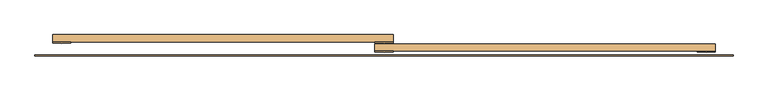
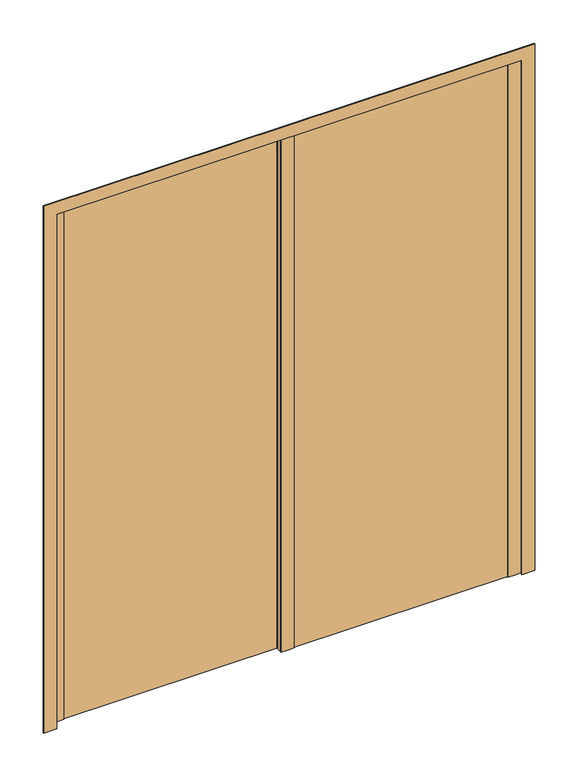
"""IFC4 building model written with IfcOpenShell, lengths in millimetres: door geometry, Portes - Placard coulissante - 2 panneaux - Placard coulissante - 2 panneaux 1.80."""

from ifc_helpers import new_model, si_unit, point, frame, frame_2d, origin, origin_with_axes, place, context, project, spatial, polyline, circle_curve, trimmed, segment, composite_curve, outline, extrude, source, transform, mapped, element, save


def door_b5ea6a65(model_context):
    return source(origin(), model_context, "Body", "SweptSolid", [
        extrude(outline(composite_curve([segment(polyline([(925.0, 10.0), (925.0, 8.0)]), True, "CONTINUOUS"), segment(trimmed(circle_curve(frame_2d((900.0, 221.8603852)), 215.3166607), [point((925.0, 8.0))], [point((875.0, 8.0))], False, "CARTESIAN"), True, "CONTINUOUS"), segment(polyline([(875.0, 8.0), (875.0, 10.0), (925.0, 10.0)]), True, "CONTINUOUS")], self_intersect=False)), origin_with_axes(), (0.0, 0.0, 1.0), 2100.0),
        extrude(outline(composite_curve([segment(polyline([(925.0, 35.0), (925.0, 33.0)]), True, "CONTINUOUS"), segment(trimmed(circle_curve(frame_2d((900.0, 246.8603852)), 215.3166607), [point((925.0, 33.0))], [point((875.0, 33.0))], False, "CARTESIAN"), True, "CONTINUOUS"), segment(polyline([(875.0, 33.0), (875.0, 35.0), (925.0, 35.0)]), True, "CONTINUOUS")], self_intersect=False)), origin_with_axes(), (0.0, 0.0, 1.0), 2100.0),
        extrude(outline(composite_curve([segment(polyline([(50.0, 35.0), (50.0, 33.0)]), True, "CONTINUOUS"), segment(trimmed(circle_curve(frame_2d((25.0, 246.8603852)), 215.3166607), [point((50.0, 33.0))], [point((0.0, 33.0))], False, "CARTESIAN"), True, "CONTINUOUS"), segment(polyline([(0.0, 33.0), (0.0, 35.0), (50.0, 35.0)]), True, "CONTINUOUS")], self_intersect=False)), origin_with_axes(), (0.0, 0.0, 1.0), 2100.0),
        extrude(outline(polyline([(0.0, -48.0), (0.0, 2.0), (2098.0, 2.0), (2098.0, 1798.0), (0.0, 1798.0), (0.0, 1848.0), (2148.0, 1848.0), (2148.0, -48.0), (0.0, -48.0)])), frame((0.0, -3.0, 0.0), z_axis=(0.0, 1.0, 0.0), x_axis=(0.0, 0.0, 1.0)), (0.0, 0.0, 1.0), 3.0),
        extrude(outline(polyline([(1800.0, 10.0), (875.0, 10.0), (875.0, 30.0), (1800.0, 30.0), (1800.0, 10.0)])), origin_with_axes(), (0.0, 0.0, 1.0), 2100.0),
        extrude(outline(polyline([(925.0, 35.0), (0.0, 35.0), (0.0, 55.0), (925.0, 55.0), (925.0, 35.0)])), origin_with_axes(), (0.0, 0.0, 1.0), 2100.0),
        extrude(outline(composite_curve([segment(polyline([(1800.0, 10.0), (1800.0, 8.0)]), True, "CONTINUOUS"), segment(trimmed(circle_curve(frame_2d((1775.0, 221.8603852)), 215.3166607), [point((1800.0, 8.0))], [point((1750.0, 8.0))], False, "CARTESIAN"), True, "CONTINUOUS"), segment(polyline([(1750.0, 8.0), (1750.0, 10.0), (1800.0, 10.0)]), True, "CONTINUOUS")], self_intersect=False)), origin_with_axes(), (0.0, 0.0, 1.0), 2100.0),
    ])


if __name__ == "__main__":
    model = new_model("IFC4")
    model_context = context("Model", 3, world=origin())
    ifc_project = project(units=[si_unit("LENGTHUNIT", "METRE", prefix="MILLI")], contexts=[model_context])
    site = spatial("IfcSite", under=ifc_project)
    building = spatial("IfcBuilding", under=site)
    placement = place(None, origin())
    door_shape = door_b5ea6a65(model_context)
    element("IfcDoor", 1, ObjectType="Portes - Placard coulissante - 2 panneaux - Placard coulissante - 2 panneaux 1.80", at=placement, inside=building, context=model_context, shape_type="MappedRepresentation", body=[
        mapped(door_shape, transform((0.0, 0.0, 0.0), x_axis=(1.0, 0.0, 0.0), y_axis=(0.0, 1.0, 0.0), z_axis=(0.0, 0.0, 1.0))),
    ])
    save(model, "model.ifc")
